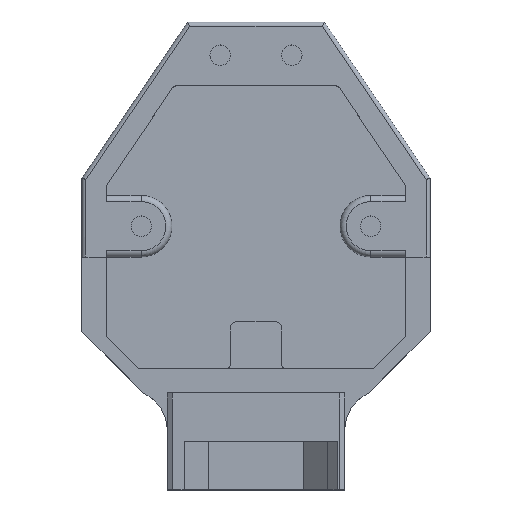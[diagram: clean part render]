
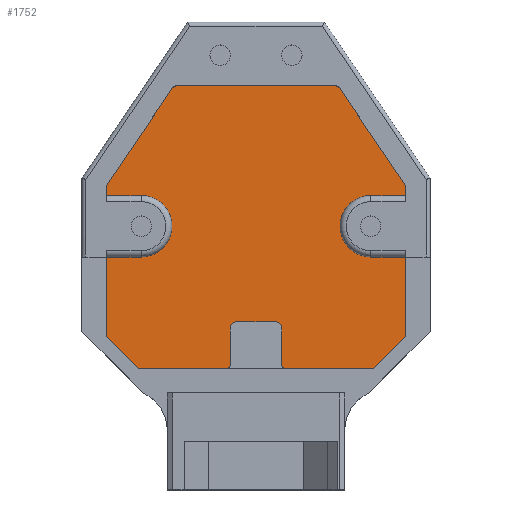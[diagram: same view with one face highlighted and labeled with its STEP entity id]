
A CAD part, top view. The second image highlights one B-rep face of the part: STEP entity #1752.
In plain terms, the highlighted planar face has unit normal (0, 0, 1).
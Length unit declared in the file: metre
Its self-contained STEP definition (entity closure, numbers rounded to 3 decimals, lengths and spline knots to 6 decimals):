
#22=CIRCLE('',#1869,0.000508);
#23=CIRCLE('',#1870,0.000508);
#24=CIRCLE('',#1871,0.000508);
#25=CIRCLE('',#1872,0.00381);
#26=CIRCLE('',#1873,0.000508);
#27=CIRCLE('',#1874,0.000762);
#28=CIRCLE('',#1875,0.000762);
#29=CIRCLE('',#1876,0.000508);
#30=CIRCLE('',#1877,0.00381);
#31=CIRCLE('',#1878,0.000508);
#112=ORIENTED_EDGE('',*,*,#632,.T.);
#113=ORIENTED_EDGE('',*,*,#633,.T.);
#114=ORIENTED_EDGE('',*,*,#634,.F.);
#115=ORIENTED_EDGE('',*,*,#635,.T.);
#116=ORIENTED_EDGE('',*,*,#636,.F.);
#117=ORIENTED_EDGE('',*,*,#637,.T.);
#118=ORIENTED_EDGE('',*,*,#638,.F.);
#119=ORIENTED_EDGE('',*,*,#639,.F.);
#120=ORIENTED_EDGE('',*,*,#640,.F.);
#121=ORIENTED_EDGE('',*,*,#641,.T.);
#122=ORIENTED_EDGE('',*,*,#642,.T.);
#123=ORIENTED_EDGE('',*,*,#643,.F.);
#124=ORIENTED_EDGE('',*,*,#644,.T.);
#125=ORIENTED_EDGE('',*,*,#645,.T.);
#126=ORIENTED_EDGE('',*,*,#646,.F.);
#127=ORIENTED_EDGE('',*,*,#647,.T.);
#128=ORIENTED_EDGE('',*,*,#648,.T.);
#129=ORIENTED_EDGE('',*,*,#649,.T.);
#130=ORIENTED_EDGE('',*,*,#650,.T.);
#131=ORIENTED_EDGE('',*,*,#651,.T.);
#132=ORIENTED_EDGE('',*,*,#652,.T.);
#133=ORIENTED_EDGE('',*,*,#653,.F.);
#134=ORIENTED_EDGE('',*,*,#654,.F.);
#135=ORIENTED_EDGE('',*,*,#655,.F.);
#136=ORIENTED_EDGE('',*,*,#656,.F.);
#137=ORIENTED_EDGE('',*,*,#657,.T.);
#138=ORIENTED_EDGE('',*,*,#658,.T.);
#139=ORIENTED_EDGE('',*,*,#659,.T.);
#632=EDGE_CURVE('',#892,#893,#1059,.T.);
#633=EDGE_CURVE('',#893,#894,#22,.T.);
#634=EDGE_CURVE('',#895,#894,#1060,.T.);
#635=EDGE_CURVE('',#895,#896,#23,.T.);
#636=EDGE_CURVE('',#897,#896,#1061,.T.);
#637=EDGE_CURVE('',#897,#898,#24,.T.);
#638=EDGE_CURVE('',#899,#898,#1062,.T.);
#639=EDGE_CURVE('',#900,#899,#1063,.T.);
#640=EDGE_CURVE('',#901,#900,#25,.T.);
#641=EDGE_CURVE('',#901,#902,#1064,.T.);
#642=EDGE_CURVE('',#902,#903,#1065,.T.);
#643=EDGE_CURVE('',#904,#903,#1066,.T.);
#644=EDGE_CURVE('',#904,#905,#1067,.T.);
#645=EDGE_CURVE('',#905,#906,#26,.T.);
#646=EDGE_CURVE('',#907,#906,#1068,.T.);
#647=EDGE_CURVE('',#907,#908,#27,.F.);
#648=EDGE_CURVE('',#908,#909,#1069,.T.);
#649=EDGE_CURVE('',#909,#910,#28,.F.);
#650=EDGE_CURVE('',#910,#911,#1070,.T.);
#651=EDGE_CURVE('',#911,#912,#29,.T.);
#652=EDGE_CURVE('',#912,#913,#1071,.T.);
#653=EDGE_CURVE('',#914,#913,#1072,.T.);
#654=EDGE_CURVE('',#915,#914,#1073,.T.);
#655=EDGE_CURVE('',#916,#915,#1074,.T.);
#656=EDGE_CURVE('',#917,#916,#30,.T.);
#657=EDGE_CURVE('',#917,#918,#1075,.T.);
#658=EDGE_CURVE('',#918,#919,#1076,.T.);
#659=EDGE_CURVE('',#919,#892,#31,.T.);
#892=VERTEX_POINT('',#2556);
#893=VERTEX_POINT('',#2557);
#894=VERTEX_POINT('',#2559);
#895=VERTEX_POINT('',#2561);
#896=VERTEX_POINT('',#2563);
#897=VERTEX_POINT('',#2565);
#898=VERTEX_POINT('',#2567);
#899=VERTEX_POINT('',#2569);
#900=VERTEX_POINT('',#2571);
#901=VERTEX_POINT('',#2573);
#902=VERTEX_POINT('',#2575);
#903=VERTEX_POINT('',#2577);
#904=VERTEX_POINT('',#2579);
#905=VERTEX_POINT('',#2581);
#906=VERTEX_POINT('',#2583);
#907=VERTEX_POINT('',#2585);
#908=VERTEX_POINT('',#2587);
#909=VERTEX_POINT('',#2589);
#910=VERTEX_POINT('',#2591);
#911=VERTEX_POINT('',#2593);
#912=VERTEX_POINT('',#2595);
#913=VERTEX_POINT('',#2597);
#914=VERTEX_POINT('',#2599);
#915=VERTEX_POINT('',#2601);
#916=VERTEX_POINT('',#2603);
#917=VERTEX_POINT('',#2605);
#918=VERTEX_POINT('',#2607);
#919=VERTEX_POINT('',#2609);
#1059=LINE('',#2555,#1259);
#1060=LINE('',#2560,#1260);
#1061=LINE('',#2564,#1261);
#1062=LINE('',#2568,#1262);
#1063=LINE('',#2570,#1263);
#1064=LINE('',#2574,#1264);
#1065=LINE('',#2576,#1265);
#1066=LINE('',#2578,#1266);
#1067=LINE('',#2580,#1267);
#1068=LINE('',#2584,#1268);
#1069=LINE('',#2588,#1269);
#1070=LINE('',#2592,#1270);
#1071=LINE('',#2596,#1271);
#1072=LINE('',#2598,#1272);
#1073=LINE('',#2600,#1273);
#1074=LINE('',#2602,#1274);
#1075=LINE('',#2606,#1275);
#1076=LINE('',#2608,#1276);
#1259=VECTOR('',#2035,1.);
#1260=VECTOR('',#2038,1.);
#1261=VECTOR('',#2041,1.);
#1262=VECTOR('',#2044,1.);
#1263=VECTOR('',#2045,1.);
#1264=VECTOR('',#2048,1.);
#1265=VECTOR('',#2049,1.);
#1266=VECTOR('',#2050,1.);
#1267=VECTOR('',#2051,1.);
#1268=VECTOR('',#2054,1.);
#1269=VECTOR('',#2057,1.);
#1270=VECTOR('',#2060,1.);
#1271=VECTOR('',#2063,1.);
#1272=VECTOR('',#2064,1.);
#1273=VECTOR('',#2065,1.);
#1274=VECTOR('',#2066,1.);
#1275=VECTOR('',#2069,1.);
#1276=VECTOR('',#2070,1.);
#1456=EDGE_LOOP('',(#112,#113,#114,#115,#116,#117,#118,#119,#120,#121,#122,
#123,#124,#125,#126,#127,#128,#129,#130,#131,#132,#133,#134,#135,#136,#137,
#138,#139));
#1569=FACE_BOUND('',#1456,.T.);
#1680=PLANE('',#1868);
#1752=ADVANCED_FACE('',(#1569),#1680,.T.);
#1868=AXIS2_PLACEMENT_3D('',#2554,#2033,#2034);
#1869=AXIS2_PLACEMENT_3D('',#2558,#2036,#2037);
#1870=AXIS2_PLACEMENT_3D('',#2562,#2039,#2040);
#1871=AXIS2_PLACEMENT_3D('',#2566,#2042,#2043);
#1872=AXIS2_PLACEMENT_3D('',#2572,#2046,#2047);
#1873=AXIS2_PLACEMENT_3D('',#2582,#2052,#2053);
#1874=AXIS2_PLACEMENT_3D('',#2586,#2055,#2056);
#1875=AXIS2_PLACEMENT_3D('',#2590,#2058,#2059);
#1876=AXIS2_PLACEMENT_3D('',#2594,#2061,#2062);
#1877=AXIS2_PLACEMENT_3D('',#2604,#2067,#2068);
#1878=AXIS2_PLACEMENT_3D('',#2610,#2071,#2072);
#2033=DIRECTION('',(0.,0.,1.));
#2034=DIRECTION('',(1.,0.,0.));
#2035=DIRECTION('',(-0.56,0.828,0.));
#2036=DIRECTION('',(0.,0.,1.));
#2037=DIRECTION('',(1.,0.,0.));
#2038=DIRECTION('',(1.,0.,0.));
#2039=DIRECTION('',(0.,0.,1.));
#2040=DIRECTION('',(1.,0.,0.));
#2041=DIRECTION('',(0.56,0.828,0.));
#2042=DIRECTION('',(0.,0.,1.));
#2043=DIRECTION('',(1.,0.,0.));
#2044=DIRECTION('',(0.,1.,0.));
#2045=DIRECTION('',(-1.,0.,0.));
#2046=DIRECTION('',(0.,0.,1.));
#2047=DIRECTION('',(1.,0.,0.));
#2048=DIRECTION('',(-1.,0.,0.));
#2049=DIRECTION('',(0.,-1.,0.));
#2050=DIRECTION('',(-0.707,0.707,0.));
#2051=DIRECTION('',(1.,0.,0.));
#2052=DIRECTION('',(0.,0.,1.));
#2053=DIRECTION('',(1.,0.,0.));
#2054=DIRECTION('',(0.,-1.,0.));
#2055=DIRECTION('',(0.,0.,1.));
#2056=DIRECTION('',(1.,0.,0.));
#2057=DIRECTION('',(1.,0.,0.));
#2058=DIRECTION('',(0.,0.,1.));
#2059=DIRECTION('',(1.,0.,0.));
#2060=DIRECTION('',(0.,-1.,0.));
#2061=DIRECTION('',(0.,0.,1.));
#2062=DIRECTION('',(1.,0.,0.));
#2063=DIRECTION('',(1.,0.,0.));
#2064=DIRECTION('',(-0.707,-0.707,0.));
#2065=DIRECTION('',(0.,-1.,0.));
#2066=DIRECTION('',(1.,0.,0.));
#2067=DIRECTION('',(0.,0.,1.));
#2068=DIRECTION('',(1.,0.,0.));
#2069=DIRECTION('',(1.,0.,0.));
#2070=DIRECTION('',(0.,1.,0.));
#2071=DIRECTION('',(0.,0.,1.));
#2072=DIRECTION('',(1.,0.,0.));
#2554=CARTESIAN_POINT('',(0.,0.,0.003175));
#2555=CARTESIAN_POINT('',(0.013947,0.008399,0.003175));
#2556=CARTESIAN_POINT('',(0.018455,0.001735,0.003175));
#2557=CARTESIAN_POINT('',(0.010329,0.013747,0.003175));
#2558=CARTESIAN_POINT('',(0.009908,0.013462,0.003175));
#2559=CARTESIAN_POINT('',(0.009908,0.01397,0.003175));
#2560=CARTESIAN_POINT('',(0.,0.01397,0.003175));
#2561=CARTESIAN_POINT('',(-0.009908,0.01397,0.003175));
#2562=CARTESIAN_POINT('',(-0.009908,0.013462,0.003175));
#2563=CARTESIAN_POINT('',(-0.010329,0.013747,0.003175));
#2564=CARTESIAN_POINT('',(-0.013947,0.008399,0.003175));
#2565=CARTESIAN_POINT('',(-0.018455,0.001735,0.003175));
#2566=CARTESIAN_POINT('',(-0.018034,0.00145,0.003175));
#2567=CARTESIAN_POINT('',(-0.018542,0.00145,0.003175));
#2568=CARTESIAN_POINT('',(-0.018542,-0.00288,0.003175));
#2569=CARTESIAN_POINT('',(-0.018542,0.000386,0.003175));
#2570=CARTESIAN_POINT('',(-0.016542,0.000386,0.003175));
#2571=CARTESIAN_POINT('',(-0.014224,0.000386,0.003175));
#2572=CARTESIAN_POINT('',(-0.014224,-0.003424,0.003175));
#2573=CARTESIAN_POINT('',(-0.014224,-0.007234,0.003175));
#2574=CARTESIAN_POINT('',(-0.016542,-0.007234,0.003175));
#2575=CARTESIAN_POINT('',(-0.018542,-0.007234,0.003175));
#2576=CARTESIAN_POINT('',(-0.018542,-0.014224,0.003175));
#2577=CARTESIAN_POINT('',(-0.018542,-0.017099,0.003175));
#2578=CARTESIAN_POINT('',(-0.01655,-0.01909,0.003175));
#2579=CARTESIAN_POINT('',(-0.014559,-0.021082,0.003175));
#2580=CARTESIAN_POINT('',(0.,-0.021082,0.003175));
#2581=CARTESIAN_POINT('',(-0.003683,-0.021082,0.003175));
#2582=CARTESIAN_POINT('',(-0.003683,-0.020574,0.003175));
#2583=CARTESIAN_POINT('',(-0.003175,-0.020574,0.003175));
#2584=CARTESIAN_POINT('',(-0.003175,-0.018467,0.003175));
#2585=CARTESIAN_POINT('',(-0.003175,-0.016054,0.003175));
#2586=CARTESIAN_POINT('',(-0.002413,-0.016054,0.003175));
#2587=CARTESIAN_POINT('',(-0.002413,-0.015292,0.003175));
#2588=CARTESIAN_POINT('',(0.,-0.015292,0.003175));
#2589=CARTESIAN_POINT('',(0.002413,-0.015292,0.003175));
#2590=CARTESIAN_POINT('',(0.002413,-0.016054,0.003175));
#2591=CARTESIAN_POINT('',(0.003175,-0.016054,0.003175));
#2592=CARTESIAN_POINT('',(0.003175,-0.018467,0.003175));
#2593=CARTESIAN_POINT('',(0.003175,-0.020574,0.003175));
#2594=CARTESIAN_POINT('',(0.003683,-0.020574,0.003175));
#2595=CARTESIAN_POINT('',(0.003683,-0.021082,0.003175));
#2596=CARTESIAN_POINT('',(0.,-0.021082,0.003175));
#2597=CARTESIAN_POINT('',(0.014541,-0.021082,0.003175));
#2598=CARTESIAN_POINT('',(0.016542,-0.019082,0.003175));
#2599=CARTESIAN_POINT('',(0.018542,-0.017081,0.003175));
#2600=CARTESIAN_POINT('',(0.018542,-0.014224,0.003175));
#2601=CARTESIAN_POINT('',(0.018542,-0.007234,0.003175));
#2602=CARTESIAN_POINT('',(0.016664,-0.007234,0.003175));
#2603=CARTESIAN_POINT('',(0.014224,-0.007234,0.003175));
#2604=CARTESIAN_POINT('',(0.014224,-0.003424,0.003175));
#2605=CARTESIAN_POINT('',(0.014224,0.000386,0.003175));
#2606=CARTESIAN_POINT('',(0.016664,0.000386,0.003175));
#2607=CARTESIAN_POINT('',(0.018542,0.000386,0.003175));
#2608=CARTESIAN_POINT('',(0.018542,-0.00288,0.003175));
#2609=CARTESIAN_POINT('',(0.018542,0.00145,0.003175));
#2610=CARTESIAN_POINT('',(0.018034,0.00145,0.003175));
